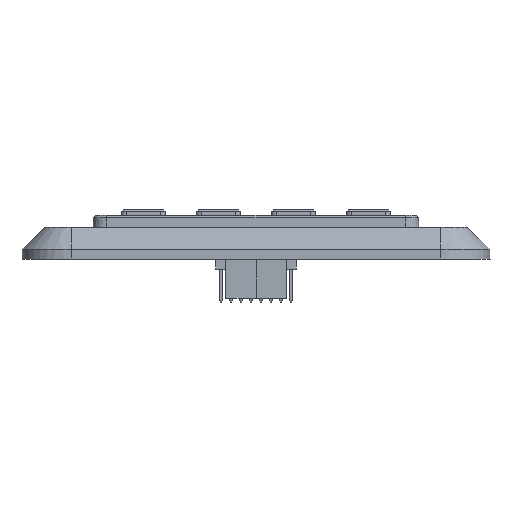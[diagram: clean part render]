
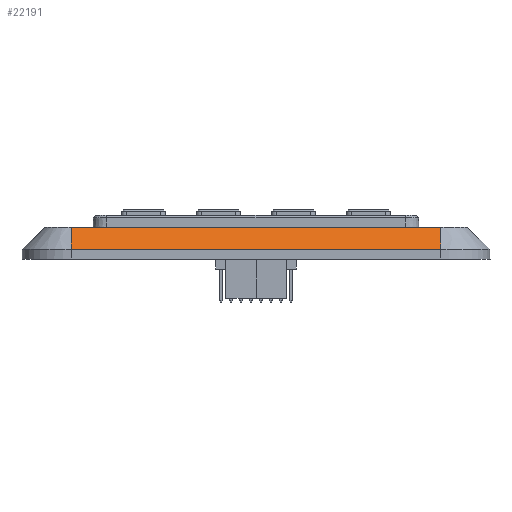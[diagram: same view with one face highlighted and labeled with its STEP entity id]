
A CAD part, front view. The second image highlights one B-rep face of the part: STEP entity #22191.
In plain terms, the highlighted planar face has unit normal (0, -0.695, 0.719).
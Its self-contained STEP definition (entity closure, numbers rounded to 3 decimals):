
#237 = CARTESIAN_POINT ( 'NONE',  ( 46.75, -53.512, 8. ) ) ;
#585 = CARTESIAN_POINT ( 'NONE',  ( -46.75, -53.512, 8. ) ) ;
#733 = CARTESIAN_POINT ( 'NONE',  ( -46.75, -53.512, 8. ) ) ;
#848 = CARTESIAN_POINT ( 'NONE',  ( -46.75, -59.206, 2.501 ) ) ;
#2102 = CARTESIAN_POINT ( 'NONE',  ( 46.75, -53.512, 8. ) ) ;
#2289 = VERTEX_POINT ( 'NONE', #18441 ) ;
#2317 = DIRECTION ( 'NONE',  ( 0., -0.719, -0.695 ) ) ;
#2408 = LINE ( 'NONE', #733, #16898 ) ;
#3696 = DIRECTION ( 'NONE',  ( 0., -0.719, -0.695 ) ) ;
#3764 = VERTEX_POINT ( 'NONE', #12963 ) ;
#4289 = EDGE_LOOP ( 'NONE', ( #19604, #13686, #13641, #7579 ) ) ;
#5313 = CARTESIAN_POINT ( 'NONE',  ( -46.75, -59.206, 2.501 ) ) ;
#6218 = AXIS2_PLACEMENT_3D ( 'NONE', #585, #12837, #2317 ) ;
#7579 = ORIENTED_EDGE ( 'NONE', *, *, #20312, .F. ) ;
#8668 = VECTOR ( 'NONE', #19200, 1000. ) ;
#11219 = DIRECTION ( 'NONE',  ( 1., 0., 0. ) ) ;
#12837 = DIRECTION ( 'NONE',  ( 0., -0.695, 0.719 ) ) ;
#12963 = CARTESIAN_POINT ( 'NONE',  ( 46.75, -59.206, 2.501 ) ) ;
#13024 = DIRECTION ( 'NONE',  ( -1., 0., 0. ) ) ;
#13248 = VERTEX_POINT ( 'NONE', #2102 ) ;
#13641 = ORIENTED_EDGE ( 'NONE', *, *, #22087, .F. ) ;
#13686 = ORIENTED_EDGE ( 'NONE', *, *, #21219, .F. ) ;
#14698 = FACE_OUTER_BOUND ( 'NONE', #4289, .T. ) ;
#16117 = LINE ( 'NONE', #848, #20010 ) ;
#16317 = VECTOR ( 'NONE', #3696, 1000. ) ;
#16898 = VECTOR ( 'NONE', #11219, 1000. ) ;
#17934 = LINE ( 'NONE', #5313, #8668 ) ;
#17975 = PLANE ( 'NONE',  #6218 ) ;
#18243 = CARTESIAN_POINT ( 'NONE',  ( -46.75, -53.512, 8. ) ) ;
#18441 = CARTESIAN_POINT ( 'NONE',  ( -46.75, -59.206, 2.501 ) ) ;
#19200 = DIRECTION ( 'NONE',  ( 0., 0.719, 0.695 ) ) ;
#19604 = ORIENTED_EDGE ( 'NONE', *, *, #22051, .F. ) ;
#20010 = VECTOR ( 'NONE', #13024, 1000. ) ;
#20312 = EDGE_CURVE ( 'NONE', #22277, #13248, #2408, .T. ) ;
#20765 = LINE ( 'NONE', #237, #16317 ) ;
#21219 = EDGE_CURVE ( 'NONE', #3764, #2289, #16117, .T. ) ;
#22051 = EDGE_CURVE ( 'NONE', #2289, #22277, #17934, .T. ) ;
#22087 = EDGE_CURVE ( 'NONE', #13248, #3764, #20765, .T. ) ;
#22191 = ADVANCED_FACE ( 'NONE', ( #14698 ), #17975, .T. ) ;
#22277 = VERTEX_POINT ( 'NONE', #18243 ) ;
